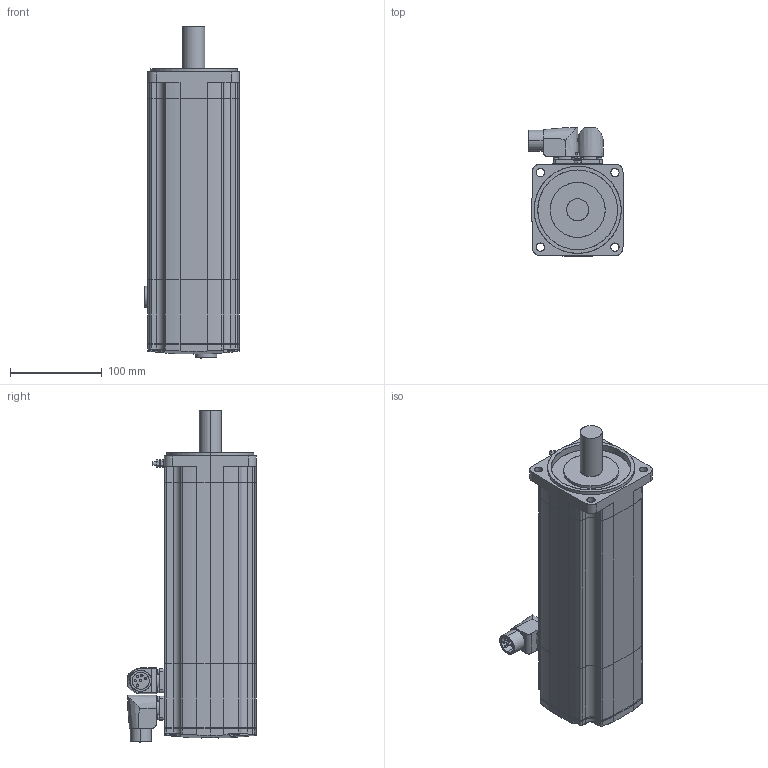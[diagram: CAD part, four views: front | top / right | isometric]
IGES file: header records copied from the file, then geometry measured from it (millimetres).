
Start section: SolidWorks IGES file using analytic representation for surfaces
Global section: file name: C:\PDM\SW-SAP\AA-IGES\SH31004x0xF2100.IGS; native system: SolidWorks 2010; preprocessor: SolidWorks 2010; author: SESA21951; date: 131129.101254; units: millimetre
Bounding box: 103.65 x 139.9 x 362.25 mm (x, y, z)
Surface area: 226881.3 mm2 (no closed solid volume)
Topology: 0 solids, 0 shells, 489 faces, 7098 edges, 7098 vertices
Faces by surface type: revolution 257, bspline 232
